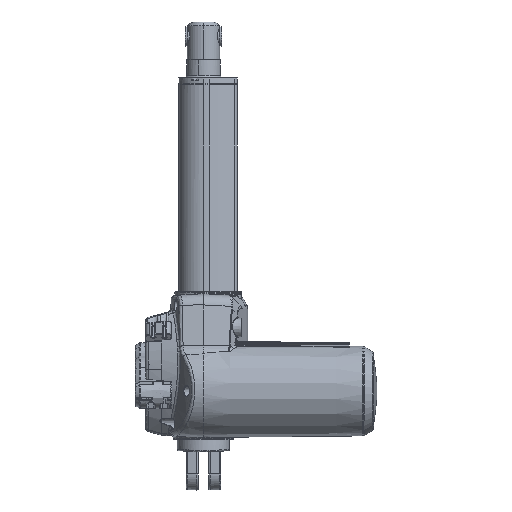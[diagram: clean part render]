
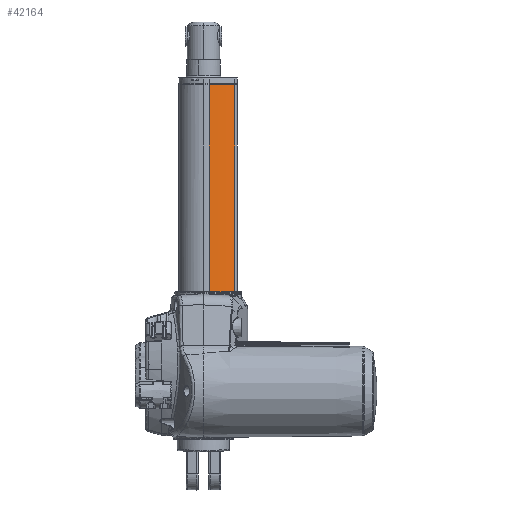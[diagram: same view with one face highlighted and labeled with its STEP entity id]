
A CAD part, left-side view. The second image highlights one B-rep face of the part: STEP entity #42164.
In plain terms, the highlighted cylindrical face has radius 82.5 mm (diameter 165 mm), a partial arc.
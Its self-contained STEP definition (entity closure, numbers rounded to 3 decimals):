
#3619 = LINE ( 'NONE', #23262, #12735 ) ;
#4718 = VERTEX_POINT ( 'NONE', #38348 ) ;
#5008 = DIRECTION ( 'NONE',  ( 1., 0., 0. ) ) ;
#5517 = DIRECTION ( 'NONE',  ( 0., 0., 1. ) ) ;
#5567 = DIRECTION ( 'NONE',  ( -1., 0., 0. ) ) ;
#7274 = VERTEX_POINT ( 'NONE', #32513 ) ;
#8277 = ORIENTED_EDGE ( 'NONE', *, *, #15930, .T. ) ;
#9347 = ORIENTED_EDGE ( 'NONE', *, *, #31132, .T. ) ;
#9512 = CYLINDRICAL_SURFACE ( 'NONE', #15399, 82.5 ) ;
#9765 = CARTESIAN_POINT ( 'NONE',  ( 61.842, 14.417, 235.327 ) ) ;
#12715 = CARTESIAN_POINT ( 'NONE',  ( 61.842, 14.417, 76.5 ) ) ;
#12735 = VECTOR ( 'NONE', #14859, 1000. ) ;
#13918 = CARTESIAN_POINT ( 'NONE',  ( 61.842, 14.417, 235.327 ) ) ;
#14859 = DIRECTION ( 'NONE',  ( 0., 0., -1. ) ) ;
#15399 = AXIS2_PLACEMENT_3D ( 'NONE', #9765, #24820, #29193 ) ;
#15930 = EDGE_CURVE ( 'NONE', #50070, #37157, #30609, .T. ) ;
#17140 = EDGE_LOOP ( 'NONE', ( #9347, #8277, #33250, #34495 ) ) ;
#22643 = CARTESIAN_POINT ( 'NONE',  ( -11.244, -23.856, 76.5 ) ) ;
#23262 = CARTESIAN_POINT ( 'NONE',  ( -11.244, -23.856, 235.327 ) ) ;
#24153 = DIRECTION ( 'NONE',  ( 0., 0., -1. ) ) ;
#24820 = DIRECTION ( 'NONE',  ( 0., 0., -1. ) ) ;
#25692 = CIRCLE ( 'NONE', #48572, 82.5 ) ;
#29193 = DIRECTION ( 'NONE',  ( -1., 0., 0. ) ) ;
#29226 = EDGE_CURVE ( 'NONE', #7274, #37157, #3619, .T. ) ;
#30609 = CIRCLE ( 'NONE', #47739, 82.5 ) ;
#31132 = EDGE_CURVE ( 'NONE', #4718, #50070, #40475, .T. ) ;
#32513 = CARTESIAN_POINT ( 'NONE',  ( -11.244, -23.856, 235.327 ) ) ;
#33250 = ORIENTED_EDGE ( 'NONE', *, *, #29226, .F. ) ;
#34495 = ORIENTED_EDGE ( 'NONE', *, *, #50319, .F. ) ;
#37157 = VERTEX_POINT ( 'NONE', #22643 ) ;
#38348 = CARTESIAN_POINT ( 'NONE',  ( -18.504, -4.314, 235.327 ) ) ;
#39080 = CARTESIAN_POINT ( 'NONE',  ( -18.504, -4.314, 76.5 ) ) ;
#40475 = LINE ( 'NONE', #44051, #45833 ) ;
#42164 = ADVANCED_FACE ( 'NONE', ( #48080 ), #9512, .T. ) ;
#44051 = CARTESIAN_POINT ( 'NONE',  ( -18.504, -4.314, 235.327 ) ) ;
#45833 = VECTOR ( 'NONE', #24153, 1000. ) ;
#47739 = AXIS2_PLACEMENT_3D ( 'NONE', #12715, #47970, #5567 ) ;
#47970 = DIRECTION ( 'NONE',  ( 0., 0., 1. ) ) ;
#48080 = FACE_OUTER_BOUND ( 'NONE', #17140, .T. ) ;
#48572 = AXIS2_PLACEMENT_3D ( 'NONE', #13918, #5517, #5008 ) ;
#50070 = VERTEX_POINT ( 'NONE', #39080 ) ;
#50319 = EDGE_CURVE ( 'NONE', #4718, #7274, #25692, .T. ) ;
